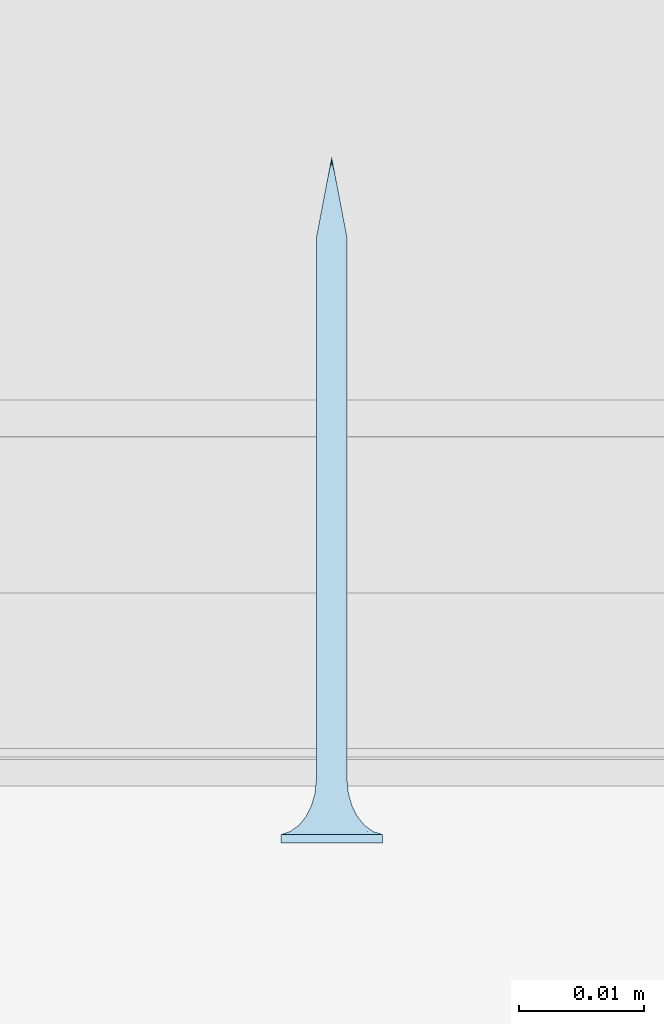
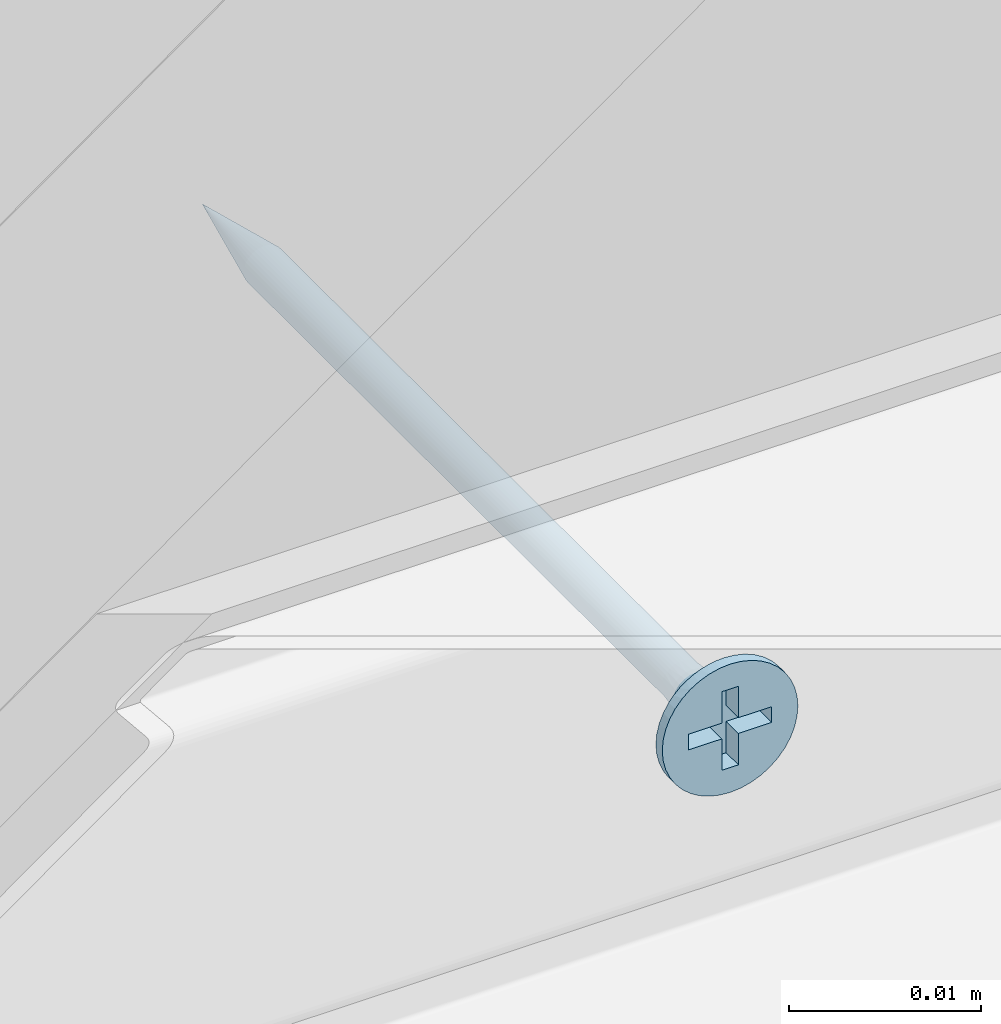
# One storey, part 29 of 62: 1 slab.
"""IFC2X3 building model written with IfcOpenShell, lengths in millimetres."""

from ifc_helpers import new_model, entity, si_unit, converted_unit, direction, frame, origin, origin_with_axes, place, context, project, spatial, faceted_brep, element, save


model = new_model("IFC2X3")

# Units and contexts
model_context = context("Model", 3, precision=1e-05, world=origin(), true_north=direction((0.0, 1.0, 0.0)))
ifc_project = project(units=[si_unit("LENGTHUNIT", "METRE", prefix="MILLI"), si_unit("AREAUNIT", "SQUARE_METRE"), si_unit("VOLUMEUNIT", "CUBIC_METRE"), converted_unit("PLANEANGLEUNIT", "DEGREE", entity("IfcPlaneAngleMeasure", 0.01745), si_unit("PLANEANGLEUNIT", "RADIAN"), dimensions=[0, 0, 0, 0, 0, 0, 0]), si_unit("SOLIDANGLEUNIT", "STERADIAN"), si_unit("MASSUNIT", "GRAM"), si_unit("TIMEUNIT", "SECOND"), si_unit("THERMODYNAMICTEMPERATUREUNIT", "DEGREE_CELSIUS"), si_unit("LUMINOUSINTENSITYUNIT", "LUMEN")], contexts=[model_context])

# Site, building, storey
site_placement = place(None, origin_with_axes())
site = spatial("IfcSite", under=ifc_project, at=site_placement, Name="Default Site", CompositionType="ELEMENT")
building_placement = place(site_placement, origin_with_axes())
building = spatial("IfcBuilding", under=site, at=building_placement, Name="Default Building", CompositionType="ELEMENT")
storey_placement = place(building_placement, origin_with_axes())
storey = spatial("IfcBuildingStorey", under=building, at=storey_placement, Name="Default Building Storey", CompositionType="ELEMENT", Elevation=0.0)

# Slab
slab_placement = place(storey_placement, frame((3469.361511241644, 6771.88979115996, 1881.158939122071), z_axis=(0.0, 0.0, -1.0), x_axis=(1.0, 4.718447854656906e-16, 0.0)))
element("IfcSlab", 1, at=slab_placement, inside=storey, Name="Wkręt RIGIPS TN 55", context=model_context, shape_type="Brep", body=[
    faceted_brep([(-136.9005263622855, 4828.206294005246, 554.7035091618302), (-136.7358758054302, 4828.206294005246, 554.8044071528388), (-136.7358758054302, 4784.726408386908, 554.8044071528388), (-136.9005263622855, 4784.726408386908, 554.7035091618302), (-138.629605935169, 4828.206294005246, 556.1802826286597), (-138.629605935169, 4784.726408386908, 556.1802826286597), (-138.5557071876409, 4784.726408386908, 556.3586899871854), (-138.5557071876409, 4828.206294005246, 556.3586899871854), (-138.3293964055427, 4784.726408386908, 556.6701800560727), (-138.182556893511, 4784.726408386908, 556.7955928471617), (-138.182556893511, 4828.206294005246, 556.7955928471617), (-138.3293964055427, 4828.206294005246, 556.6701800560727), (-138.629605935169, 4828.206294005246, 555.4197173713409), (-138.629605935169, 4784.726408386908, 555.4197173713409), (-138.6746858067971, 4784.726408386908, 555.60748855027), (-138.6746858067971, 4828.206294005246, 555.60748855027), (-138.3293964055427, 4828.206294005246, 554.9298199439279), (-138.182556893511, 4828.206294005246, 554.8044071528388), (-138.182556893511, 4784.726408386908, 554.8044071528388), (-138.3293964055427, 4784.726408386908, 554.9298199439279), (-136.2888267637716, 4828.206294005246, 555.4197173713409), (-136.2888267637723, 4784.726408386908, 555.4197173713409), (-136.3627255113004, 4784.726408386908, 555.2413100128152), (-136.3627255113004, 4828.206294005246, 555.2413100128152), (-136.3627255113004, 4828.206294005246, 556.3586899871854), (-136.3627255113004, 4784.726408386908, 556.3586899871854), (-136.2888267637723, 4784.726408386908, 556.1802826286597), (-136.2888267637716, 4828.206294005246, 556.1802826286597), (-136.2437468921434, 4828.206294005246, 555.9925114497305), (-136.2437468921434, 4784.726408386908, 555.9925114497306), (-136.2285959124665, 4784.726408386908, 555.8000000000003), (-136.2285959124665, 4828.206294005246, 555.8000000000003), (-138.4548091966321, 4784.726408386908, 556.5233405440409), (-138.4548091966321, 4828.206294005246, 556.5233405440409), (-136.7358758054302, 4784.726408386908, 556.7955928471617), (-136.5890362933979, 4784.726408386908, 556.6701800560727), (-136.5890362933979, 4828.206294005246, 556.6701800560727), (-136.7358758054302, 4828.206294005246, 556.7955928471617), (-136.4636235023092, 4784.726408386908, 556.5233405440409), (-136.4636235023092, 4828.206294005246, 556.5233405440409), (-137.0789337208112, 4784.726408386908, 556.9703895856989), (-136.9005263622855, 4784.726408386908, 556.8964908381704), (-136.9005263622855, 4828.206294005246, 556.8964908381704), (-137.0789337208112, 4828.206294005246, 556.9703895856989), (-138.6746858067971, 4828.206294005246, 555.9925114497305), (-138.6746858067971, 4784.726408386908, 555.9925114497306), (-138.0179063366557, 4784.726408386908, 556.8964908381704), (-138.0179063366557, 4828.206294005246, 556.8964908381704), (-137.0789337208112, 4828.206294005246, 554.6296104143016), (-137.0789337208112, 4784.726408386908, 554.6296104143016), (-138.0179063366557, 4828.206294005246, 554.7035091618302), (-137.83949897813, 4828.206294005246, 554.6296104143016), (-137.83949897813, 4784.726408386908, 554.6296104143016), (-138.0179063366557, 4784.726408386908, 554.7035091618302), (-138.5557071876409, 4828.206294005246, 555.2413100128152), (-138.5557071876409, 4784.726408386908, 555.2413100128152), (-138.4548091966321, 4828.206294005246, 555.0766594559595), (-138.4548091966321, 4784.726408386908, 555.0766594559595), (-137.2667048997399, 4784.726408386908, 557.0154694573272), (-137.2667048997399, 4828.206294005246, 557.0154694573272), (-137.4592163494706, 4784.726408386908, 557.0306204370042), (-137.4592163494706, 4828.206294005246, 557.0306204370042), (-137.83949897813, 4784.726408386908, 556.9703895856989), (-137.83949897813, 4828.206294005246, 556.9703895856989), (-136.2437468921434, 4828.206294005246, 555.60748855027), (-136.2437468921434, 4784.726408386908, 555.60748855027), (-137.6517277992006, 4828.206294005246, 554.5845305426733), (-137.6517277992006, 4784.726408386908, 554.5845305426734), (-137.4592163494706, 4828.206294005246, 554.5693795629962), (-137.4592163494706, 4784.726408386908, 554.5693795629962), (-137.2667048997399, 4828.206294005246, 554.5845305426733), (-137.2667048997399, 4784.726408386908, 554.5845305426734), (-136.5890362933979, 4828.206294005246, 554.9298199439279), (-136.5890362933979, 4784.726408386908, 554.9298199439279), (-136.4636235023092, 4784.726408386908, 555.0766594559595), (-136.4636235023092, 4828.206294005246, 555.0766594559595), (-138.6898367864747, 4828.206294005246, 555.8000000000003), (-138.6898367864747, 4784.726408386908, 555.8000000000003), (-137.6517277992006, 4784.726408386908, 557.0154694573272), (-137.6517277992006, 4828.206294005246, 557.0154694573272), (-141.5377463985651, 4832.59805152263, 555.8000000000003), (-141.5377463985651, 4833.259713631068, 555.8000000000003), (-141.4875329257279, 4833.259713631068, 555.1619773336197), (-141.4875329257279, 4832.59805152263, 555.1619773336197), (-141.3381289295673, 4833.259713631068, 554.5396649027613), (-141.3381289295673, 4832.59805152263, 554.5396649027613), (-141.0932132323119, 4833.259713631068, 553.9483861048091), (-141.0932132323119, 4832.59805152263, 553.9483861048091), (-140.7588164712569, 4833.259713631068, 553.4027001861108), (-140.7588164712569, 4832.59805152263, 553.4027001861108), (-140.3431726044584, 4833.259713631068, 552.9160437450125), (-140.4541727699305, 4832.59805152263, 553.0314907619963), (-140.1080097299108, 4832.59805152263, 552.6986614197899), (-139.8565161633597, 4833.259713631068, 552.500399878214), (-139.7251262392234, 4832.59805152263, 552.4088262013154), (-139.3108302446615, 4833.259713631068, 552.1660031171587), (-139.3108302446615, 4832.59805152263, 552.1660031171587), (-138.8708651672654, 4832.59805152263, 551.9735584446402), (-138.7195514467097, 4833.259713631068, 551.9210874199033), (-138.4113302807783, 4832.59805152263, 551.8341600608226), (-137.9385961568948, 4832.59805152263, 551.7497404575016), (-138.0972390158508, 4833.259713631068, 551.7716834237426), (-137.4592163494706, 4833.259713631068, 551.7214699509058), (-137.4592163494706, 4832.59805152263, 551.7214699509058), (-136.8211936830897, 4833.259713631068, 551.7716834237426), (-136.8211936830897, 4832.59805152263, 551.7716834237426), (-136.1988812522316, 4833.259713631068, 551.9210874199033), (-136.1988812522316, 4832.59805152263, 551.9210874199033), (-135.6076024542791, 4833.259713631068, 552.1660031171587), (-135.6076024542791, 4832.59805152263, 552.1660031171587), (-135.0619165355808, 4833.259713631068, 552.500399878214), (-135.0619165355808, 4832.59805152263, 552.500399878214), (-134.5752600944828, 4833.259713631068, 552.9160437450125), (-134.5752600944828, 4832.59805152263, 552.9160437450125), (-134.1596162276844, 4833.259713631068, 553.4027001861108), (-134.1596162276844, 4832.59805152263, 553.4027001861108), (-133.8252194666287, 4833.259713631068, 553.9483861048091), (-133.8252194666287, 4832.59805152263, 553.9483861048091), (-133.5803037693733, 4833.259713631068, 554.5396649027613), (-133.5803037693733, 4832.59805152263, 554.5396649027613), (-133.4308997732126, 4833.259713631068, 556.4380226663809), (-133.4308997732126, 4832.59805152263, 556.4380226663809), (-133.3806863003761, 4832.59805152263, 555.8000000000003), (-133.3806863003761, 4833.259713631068, 555.8000000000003), (-133.4308997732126, 4832.59805152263, 555.1619773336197), (-133.4308997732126, 4833.259713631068, 555.1619773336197), (-133.5803037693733, 4833.259713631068, 557.0603350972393), (-133.5803037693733, 4832.59805152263, 557.0603350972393), (-133.8252194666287, 4833.259713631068, 557.6516138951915), (-133.8252194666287, 4832.59805152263, 557.6516138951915), (-134.1596162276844, 4833.259713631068, 558.1972998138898), (-134.1596162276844, 4832.59805152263, 558.1972998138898), (-134.5752600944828, 4833.259713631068, 558.6839562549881), (-134.5752600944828, 4832.59805152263, 558.6839562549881), (-135.0619165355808, 4833.259713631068, 559.0996001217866), (-135.0619165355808, 4832.59805152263, 559.0996001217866), (-135.6076024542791, 4833.259713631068, 559.4339968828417), (-135.6076024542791, 4832.59805152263, 559.4339968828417), (-136.1988812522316, 4833.259713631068, 559.6789125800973), (-136.1988812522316, 4832.59805152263, 559.6789125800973), (-136.8211936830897, 4833.259713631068, 559.8283165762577), (-136.8211936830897, 4832.59805152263, 559.8283165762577), (-137.4592163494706, 4833.259713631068, 559.8785300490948), (-137.4592163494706, 4832.59805152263, 559.8785300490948), (-138.0972390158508, 4833.259713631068, 559.8283165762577), (-138.0972390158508, 4832.59805152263, 559.8283165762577), (-138.7195514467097, 4833.259713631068, 559.6789125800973), (-138.7195514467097, 4832.59805152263, 559.6789125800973), (-139.3108302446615, 4833.259713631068, 559.4339968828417), (-139.3108302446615, 4832.59805152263, 559.4339968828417), (-139.8565161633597, 4833.259713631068, 559.0996001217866), (-139.8565161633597, 4832.59805152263, 559.0996001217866), (-140.3431726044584, 4833.259713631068, 558.6839562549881), (-140.3431726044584, 4832.59805152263, 558.6839562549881), (-140.7588164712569, 4833.259713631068, 558.1972998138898), (-140.7588164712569, 4832.59805152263, 558.1972998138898), (-141.0932132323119, 4833.259713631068, 557.6516138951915), (-141.0932132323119, 4832.59805152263, 557.6516138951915), (-141.3381289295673, 4833.259713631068, 557.0603350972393), (-141.3381289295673, 4832.59805152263, 557.0603350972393), (-141.4875329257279, 4833.259713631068, 556.4380226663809), (-141.4875329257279, 4832.59805152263, 556.4380226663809), (-137.8060615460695, 4829.281368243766, 554.5055560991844), (-137.4592163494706, 4829.281368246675, 554.4598930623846), (-138.1292698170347, 4829.281368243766, 554.6394333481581), (-138.4068150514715, 4829.281368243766, 554.8524012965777), (-138.6197830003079, 4829.281368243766, 555.1299465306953), (-138.7536602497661, 4829.281368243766, 555.4531548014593), (-138.7993232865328, 4829.281368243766, 555.7999999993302), (-138.7536602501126, 4829.281368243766, 556.1468451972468), (-138.6197830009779, 4829.281368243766, 556.4700534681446), (-138.4068150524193, 4829.281368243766, 556.7475987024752), (-138.1292698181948, 4829.281368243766, 556.9605666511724), (-137.8060615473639, 4829.281368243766, 557.0944439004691), (-137.4592163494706, 4829.281368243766, 557.1401069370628), (-137.1123711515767, 4829.281368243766, 557.0944439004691), (-136.7891628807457, 4829.281368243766, 556.9605666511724), (-136.5116176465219, 4829.281368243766, 556.7475987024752), (-136.2986496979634, 4829.281368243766, 556.4700534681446), (-136.1647724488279, 4829.281368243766, 556.1468451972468), (-136.1191094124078, 4829.281368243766, 555.7999999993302), (-136.1647724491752, 4829.281368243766, 555.4531548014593), (-136.2986496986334, 4829.281368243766, 555.1299465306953), (-136.5116176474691, 4829.281368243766, 554.8524012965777), (-136.7891628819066, 4829.281368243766, 554.6394333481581), (-137.112371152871, 4829.281368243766, 554.5055560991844), (-137.4592163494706, 4830.288222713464, 554.1737111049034), (-137.8801308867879, 4830.288222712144, 554.229125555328), (-138.2723607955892, 4830.288222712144, 554.3915925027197), (-138.6091762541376, 4830.288222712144, 554.6500400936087), (-138.8676238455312, 4830.288222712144, 554.9868555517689), (-139.0300907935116, 4830.288222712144, 555.3790854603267), (-139.0855052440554, 4830.288222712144, 555.7999999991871), (-139.0300907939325, 4830.288222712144, 556.220914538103), (-138.8676238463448, 4830.288222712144, 556.6131444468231), (-138.6091762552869, 4830.288222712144, 556.9499599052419), (-138.2723607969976, 4830.288222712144, 557.2084074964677), (-137.8801308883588, 4830.288222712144, 557.3708744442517), (-137.4592163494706, 4830.288222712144, 557.426288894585), (-137.0383018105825, 4830.288222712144, 557.3708744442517), (-136.6460719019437, 4830.288222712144, 557.2084074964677), (-136.3092564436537, 4830.288222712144, 556.9499599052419), (-136.0508088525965, 4830.288222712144, 556.6131444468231), (-135.8883419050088, 4830.288222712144, 556.220914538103), (-135.8329274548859, 4830.288222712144, 555.7999999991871), (-135.8883419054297, 4830.288222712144, 555.3790854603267), (-136.0508088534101, 4830.288222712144, 554.9868555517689), (-136.3092564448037, 4830.288222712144, 554.6500400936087), (-136.6460719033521, 4830.288222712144, 554.3915925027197), (-137.0383018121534, 4830.288222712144, 554.229125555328), (-137.4592163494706, 4831.168773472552, 553.7273431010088), (-137.9956594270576, 4831.168773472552, 553.7979671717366), (-138.4955447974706, 4831.168773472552, 554.0050264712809), (-138.9248060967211, 4831.168773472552, 554.3344102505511), (-139.2541898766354, 4831.168773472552, 554.763671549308), (-139.4612491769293, 4831.168773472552, 555.2635569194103), (-139.5318732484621, 4831.168773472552, 555.799999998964), (-139.4612491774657, 4831.168773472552, 556.3364430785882), (-139.2541898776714, 4831.168773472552, 556.8363284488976), (-138.9248060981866, 4831.168773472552, 557.2655897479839), (-138.4955447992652, 4831.168773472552, 557.594973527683), (-137.9956594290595, 4831.168773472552, 557.8020328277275), (-137.4592163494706, 4831.168773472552, 557.8726568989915), (-136.9227732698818, 4831.168773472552, 557.8020328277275), (-136.4228878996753, 4831.168773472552, 557.594973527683), (-135.993626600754, 4831.168773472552, 557.2655897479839), (-135.6642428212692, 4831.168773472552, 556.8363284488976), (-135.4571835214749, 4831.168773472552, 556.3364430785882), (-135.3865594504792, 4831.168773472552, 555.799999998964), (-135.4571835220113, 4831.168773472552, 555.2635569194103), (-135.6642428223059, 4831.168773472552, 554.763671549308), (-135.9936266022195, 4831.168773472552, 554.3344102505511), (-136.4228879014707, 4831.168773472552, 554.0050264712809), (-136.9227732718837, 4831.168773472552, 553.7979671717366), (-137.4592163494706, 4831.872222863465, 553.1465393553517), (-138.1459824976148, 4831.872222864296, 553.2369538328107), (-138.7859466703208, 4831.872222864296, 553.5020356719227), (-139.3354963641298, 4831.872222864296, 553.9237199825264), (-139.7571806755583, 4831.872222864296, 554.4732696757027), (-140.02226251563, 4831.872222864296, 555.1132338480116), (-140.1126769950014, 4831.872222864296, 555.7999999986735), (-140.0222625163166, 4831.872222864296, 556.4867661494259), (-139.7571806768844, 4831.872222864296, 557.1267303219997), (-139.335496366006, 4831.872222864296, 557.6762800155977), (-138.7859466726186, 4831.872222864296, 558.097964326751), (-138.1459825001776, 4831.872222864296, 558.363046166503), (-137.4592163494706, 4831.872222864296, 558.4534606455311), (-136.7724501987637, 4831.872222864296, 558.363046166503), (-136.1324860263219, 4831.872222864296, 558.097964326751), (-135.5829363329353, 4831.872222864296, 557.6762800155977), (-135.1612520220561, 4831.872222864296, 557.1267303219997), (-134.8961701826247, 4831.872222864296, 556.4867661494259), (-134.8057557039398, 4831.872222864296, 555.7999999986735), (-134.8961701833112, 4831.872222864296, 555.1132338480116), (-135.161252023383, 4831.872222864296, 554.4732696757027), (-135.5829363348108, 4831.872222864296, 553.9237199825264), (-136.1324860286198, 4831.872222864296, 553.5020356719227), (-136.7724502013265, 4831.872222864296, 553.2369538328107), (-137.4592163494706, 4832.35798993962, 552.4648055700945), (-138.3224281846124, 4832.357989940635, 552.578449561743), (-139.1268135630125, 4832.357989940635, 552.9116368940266), (-139.8175549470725, 4832.357989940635, 553.4416613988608), (-140.3475794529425, 4832.357989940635, 554.1324027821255), (-140.6807667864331, 4832.357989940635, 554.936788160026), (-140.7944107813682, 4832.357989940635, 555.7999999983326), (-140.6807667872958, 4832.357989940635, 556.663211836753), (-140.3475794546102, 4832.357989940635, 557.4675972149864), (-139.817554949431, 4832.357989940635, 558.1583385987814), (-139.1268135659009, 4832.357989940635, 558.6883631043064), (-138.3224281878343, 4832.357989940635, 559.0215504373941), (-137.4592163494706, 4832.357989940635, 559.1351944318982), (-136.5960045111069, 4832.357989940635, 559.0215504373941), (-135.7916191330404, 4832.357989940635, 558.6883631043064), (-135.1008777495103, 4832.357989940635, 558.1583385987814), (-134.5708532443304, 4832.357989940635, 557.4675972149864), (-134.2376659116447, 4832.357989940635, 556.663211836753), (-134.1240219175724, 4832.357989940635, 555.7999999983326), (-134.2376659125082, 4832.357989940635, 554.936788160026), (-134.570853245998, 4832.357989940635, 554.1324027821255), (-135.1008777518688, 4832.357989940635, 553.4416613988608), (-135.7916191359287, 4832.357989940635, 552.9116368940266), (-136.5960045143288, 4832.357989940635, 552.578449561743), (-137.4592163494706, 4778.259713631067, 555.8000000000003), (-139.9592163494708, 4833.259713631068, 556.3000000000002), (-137.9592163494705, 4833.259713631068, 556.3000000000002), (-139.9592163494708, 4833.259713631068, 555.3000000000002), (-137.9592163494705, 4833.259713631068, 555.3000000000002), (-137.9592163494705, 4833.259713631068, 553.3000000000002), (-136.9592163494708, 4833.259713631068, 553.3000000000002), (-136.9592163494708, 4833.259713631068, 555.3000000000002), (-134.9592163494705, 4833.259713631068, 555.3000000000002), (-134.9592163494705, 4833.259713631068, 556.3000000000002), (-136.9592163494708, 4833.259713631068, 556.3000000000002), (-136.9592163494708, 4833.259713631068, 558.3000000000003), (-137.9592163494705, 4833.259713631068, 558.3000000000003), (-136.9592163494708, 4831.988379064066, 556.3000000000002), (-134.9592163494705, 4831.988379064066, 556.3000000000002), (-134.9592163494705, 4831.988379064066, 555.3000000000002), (-136.9592163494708, 4831.988379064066, 555.3000000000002), (-136.9592163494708, 4831.988379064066, 553.3000000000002), (-137.9592163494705, 4831.988379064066, 553.3000000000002), (-137.9592163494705, 4831.988379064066, 555.3000000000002), (-139.9592163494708, 4831.988379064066, 555.3000000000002), (-139.9592163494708, 4831.988379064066, 556.3000000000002), (-137.9592163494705, 4831.988379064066, 556.3000000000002), (-137.9592163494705, 4831.988379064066, 558.3000000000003), (-136.9592163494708, 4831.988379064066, 558.3000000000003)], [[[0, 1, 2, 3]], [[4, 5, 6, 7]], [[8, 9, 10, 11]], [[12, 13, 14, 15]], [[16, 17, 18, 19]], [[20, 21, 22, 23]], [[24, 25, 26, 27]], [[28, 29, 30, 31]], [[7, 6, 32, 33]], [[34, 35, 36, 37]], [[36, 35, 38, 39]], [[40, 41, 42, 43]], [[44, 45, 5, 4]], [[9, 46, 47, 10]], [[41, 34, 37, 42]], [[48, 0, 3, 49]], [[33, 32, 8, 11]], [[50, 51, 52, 53]], [[54, 55, 13, 12]], [[56, 57, 55, 54]], [[58, 40, 43, 59]], [[60, 58, 59, 61]], [[16, 19, 57, 56]], [[17, 50, 53, 18]], [[39, 38, 25, 24]], [[46, 62, 63, 47]], [[64, 65, 21, 20]], [[51, 66, 67, 52]], [[66, 68, 69, 67]], [[68, 70, 71, 69]], [[1, 72, 73, 2]], [[23, 22, 74, 75]], [[27, 26, 29, 28]], [[76, 77, 45, 44]], [[75, 74, 73, 72]], [[31, 30, 65, 64]], [[78, 60, 61, 79]], [[62, 78, 79, 63]], [[70, 48, 49, 71]], [[15, 14, 77, 76]], [[80, 81, 82, 83]], [[84, 85, 83, 82]], [[86, 87, 85, 84]], [[87, 86, 88, 89]], [[88, 90, 89]], [[90, 91, 89]], [[92, 91, 93]], [[91, 90, 93]], [[93, 94, 92]], [[93, 95, 94]], [[95, 96, 94]], [[97, 96, 98]], [[96, 95, 98]], [[98, 99, 97]], [[100, 99, 101]], [[99, 98, 101]], [[101, 102, 100]], [[102, 103, 100]], [[103, 102, 104, 105]], [[106, 107, 105, 104]], [[108, 109, 107, 106]], [[109, 108, 110, 111]], [[112, 113, 111, 110]], [[113, 112, 114, 115]], [[116, 117, 115, 114]], [[118, 119, 117, 116]], [[120, 121, 122, 123]], [[123, 122, 124, 125]], [[119, 118, 125, 124]], [[126, 127, 121, 120]], [[128, 129, 127, 126]], [[129, 128, 130, 131]], [[132, 133, 131, 130]], [[133, 132, 134, 135]], [[136, 137, 135, 134]], [[138, 139, 137, 136]], [[139, 138, 140, 141]], [[142, 143, 141, 140]], [[143, 142, 144, 145]], [[146, 147, 145, 144]], [[148, 149, 147, 146]], [[149, 148, 150, 151]], [[152, 153, 151, 150]], [[153, 152, 154, 155]], [[156, 157, 155, 154]], [[158, 159, 157, 156]], [[159, 158, 160, 161]], [[81, 80, 161, 160]], [[162, 68, 66]], [[162, 163, 68]], [[66, 51, 162]], [[162, 51, 164]], [[50, 164, 51]], [[164, 50, 17]], [[17, 165, 164]], [[17, 16, 165]], [[166, 16, 56]], [[166, 165, 16]], [[56, 54, 166]], [[166, 54, 167]], [[12, 167, 54]], [[167, 12, 15]], [[15, 168, 167]], [[15, 76, 168]], [[169, 76, 44]], [[169, 168, 76]], [[44, 4, 169]], [[169, 4, 170]], [[7, 170, 4]], [[170, 7, 33]], [[33, 171, 170]], [[33, 11, 171]], [[172, 11, 10]], [[172, 171, 11]], [[10, 47, 172]], [[172, 47, 173]], [[63, 173, 47]], [[173, 63, 79]], [[79, 174, 173]], [[79, 61, 174]], [[175, 61, 59]], [[175, 174, 61]], [[59, 43, 175]], [[175, 43, 176]], [[42, 176, 43]], [[176, 42, 37]], [[37, 177, 176]], [[37, 36, 177]], [[178, 36, 39]], [[178, 177, 36]], [[39, 24, 178]], [[178, 24, 179]], [[27, 179, 24]], [[179, 27, 28]], [[28, 180, 179]], [[28, 31, 180]], [[181, 31, 64]], [[181, 180, 31]], [[64, 20, 181]], [[181, 20, 182]], [[23, 182, 20]], [[182, 23, 75]], [[75, 183, 182]], [[75, 72, 183]], [[184, 72, 1]], [[184, 183, 72]], [[1, 0, 184]], [[184, 0, 185]], [[48, 185, 0]], [[185, 48, 70]], [[70, 163, 185]], [[70, 68, 163]], [[186, 163, 187]], [[162, 187, 163]], [[164, 188, 187, 162]], [[165, 189, 188, 164]], [[166, 190, 189, 165]], [[167, 191, 190, 166]], [[168, 192, 191, 167]], [[169, 193, 192, 168]], [[170, 194, 193, 169]], [[171, 195, 194, 170]], [[172, 196, 195, 171]], [[173, 197, 196, 172]], [[174, 198, 197, 173]], [[175, 199, 198, 174]], [[176, 200, 199, 175]], [[177, 201, 200, 176]], [[178, 202, 201, 177]], [[179, 203, 202, 178]], [[180, 204, 203, 179]], [[181, 205, 204, 180]], [[182, 206, 205, 181]], [[183, 207, 206, 182]], [[184, 208, 207, 183]], [[185, 209, 208, 184]], [[185, 163, 209]], [[186, 209, 163]], [[210, 186, 211]], [[187, 211, 186]], [[188, 212, 211, 187]], [[189, 213, 212, 188]], [[190, 214, 213, 189]], [[191, 215, 214, 190]], [[192, 216, 215, 191]], [[193, 217, 216, 192]], [[194, 218, 217, 193]], [[195, 219, 218, 194]], [[196, 220, 219, 195]], [[197, 221, 220, 196]], [[198, 222, 221, 197]], [[199, 223, 222, 198]], [[200, 224, 223, 199]], [[201, 225, 224, 200]], [[202, 226, 225, 201]], [[203, 227, 226, 202]], [[204, 228, 227, 203]], [[205, 229, 228, 204]], [[206, 230, 229, 205]], [[207, 231, 230, 206]], [[208, 232, 231, 207]], [[209, 233, 232, 208]], [[209, 186, 233]], [[210, 233, 186]], [[234, 210, 235]], [[211, 235, 210]], [[212, 236, 235, 211]], [[213, 237, 236, 212]], [[214, 238, 237, 213]], [[215, 239, 238, 214]], [[216, 240, 239, 215]], [[217, 241, 240, 216]], [[218, 242, 241, 217]], [[219, 243, 242, 218]], [[220, 244, 243, 219]], [[221, 245, 244, 220]], [[222, 246, 245, 221]], [[223, 247, 246, 222]], [[224, 248, 247, 223]], [[225, 249, 248, 224]], [[226, 250, 249, 225]], [[227, 251, 250, 226]], [[228, 252, 251, 227]], [[229, 253, 252, 228]], [[230, 254, 253, 229]], [[231, 255, 254, 230]], [[232, 256, 255, 231]], [[233, 257, 256, 232]], [[233, 210, 257]], [[234, 257, 210]], [[258, 99, 100]], [[258, 259, 99]], [[100, 103, 258]], [[258, 234, 259]], [[235, 259, 234]], [[259, 96, 97]], [[259, 260, 96]], [[97, 99, 259]], [[236, 260, 259, 235]], [[261, 91, 92]], [[260, 92, 94]], [[260, 261, 92]], [[94, 96, 260]], [[237, 261, 260, 236]], [[262, 87, 89]], [[89, 261, 262]], [[89, 91, 261]], [[238, 262, 261, 237]], [[85, 87, 263]], [[262, 263, 87]], [[239, 263, 262, 238]], [[263, 80, 83]], [[263, 264, 80]], [[83, 85, 263]], [[240, 264, 263, 239]], [[265, 159, 161]], [[161, 264, 265]], [[161, 80, 264]], [[241, 265, 264, 240]], [[265, 266, 157, 159]], [[242, 266, 265, 241]], [[266, 153, 155]], [[266, 267, 153]], [[155, 157, 266]], [[243, 267, 266, 242]], [[268, 149, 151]], [[151, 267, 268]], [[151, 153, 267]], [[244, 268, 267, 243]], [[268, 269, 147, 149]], [[245, 269, 268, 244]], [[269, 143, 145]], [[269, 270, 143]], [[145, 147, 269]], [[246, 270, 269, 245]], [[271, 139, 141]], [[141, 270, 271]], [[141, 143, 270]], [[247, 271, 270, 246]], [[271, 272, 137, 139]], [[248, 272, 271, 247]], [[272, 133, 135]], [[272, 273, 133]], [[135, 137, 272]], [[249, 273, 272, 248]], [[274, 129, 131]], [[131, 273, 274]], [[131, 133, 273]], [[250, 274, 273, 249]], [[274, 275, 127, 129]], [[251, 275, 274, 250]], [[275, 122, 121]], [[275, 276, 122]], [[121, 127, 275]], [[252, 276, 275, 251]], [[277, 119, 124]], [[124, 276, 277]], [[124, 122, 276]], [[253, 277, 276, 252]], [[117, 119, 278]], [[277, 278, 119]], [[254, 278, 277, 253]], [[278, 113, 115]], [[278, 279, 113]], [[115, 117, 278]], [[255, 279, 278, 254]], [[280, 109, 111]], [[111, 279, 280]], [[111, 113, 279]], [[256, 280, 279, 255]], [[107, 109, 281]], [[280, 281, 109]], [[257, 281, 280, 256]], [[257, 234, 281]], [[258, 281, 234]], [[281, 103, 105]], [[281, 258, 103]], [[105, 107, 281]], [[14, 13, 282]], [[282, 77, 14]], [[13, 55, 282]], [[57, 19, 282]], [[282, 55, 57]], [[18, 53, 282]], [[282, 19, 18]], [[53, 52, 282]], [[67, 69, 282]], [[282, 52, 67]], [[71, 49, 282]], [[282, 69, 71]], [[49, 3, 282]], [[2, 73, 282]], [[282, 3, 2]], [[74, 22, 282]], [[282, 73, 74]], [[22, 21, 282]], [[65, 30, 282]], [[282, 21, 65]], [[29, 26, 282]], [[282, 30, 29]], [[26, 25, 282]], [[38, 35, 282]], [[282, 25, 38]], [[34, 41, 282]], [[282, 35, 34]], [[41, 40, 282]], [[58, 60, 282]], [[282, 40, 58]], [[78, 62, 282]], [[282, 60, 78]], [[62, 46, 282]], [[9, 8, 282]], [[282, 46, 9]], [[32, 6, 282]], [[282, 8, 32]], [[6, 5, 282]], [[45, 77, 282]], [[282, 5, 45]], [[283, 156, 154, 284]], [[283, 285, 286, 287, 288, 289, 290, 291, 292, 293, 294, 284, 154, 152, 150, 148, 146, 144, 142, 140, 138, 136, 134, 132, 130, 128, 126, 120, 123, 125, 118, 116, 114, 112, 110, 108, 106, 104, 102, 101, 98, 95, 93, 90, 88, 86, 84, 82, 81, 160, 158, 156]], [[295, 296, 297, 298, 299, 300, 301, 302, 303, 304, 305, 306]], [[297, 290, 289, 298]], [[296, 291, 290, 297]], [[295, 292, 291, 296]], [[306, 293, 292, 295]], [[305, 294, 293, 306]], [[304, 284, 294, 305]], [[303, 283, 284, 304]], [[302, 285, 283, 303]], [[301, 286, 285, 302]], [[300, 287, 286, 301]], [[299, 288, 287, 300]], [[298, 289, 288, 299]]]),
])

save(model, "model.ifc")
